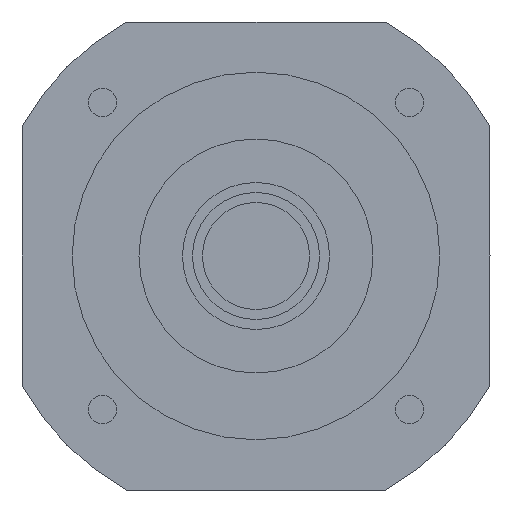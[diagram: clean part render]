
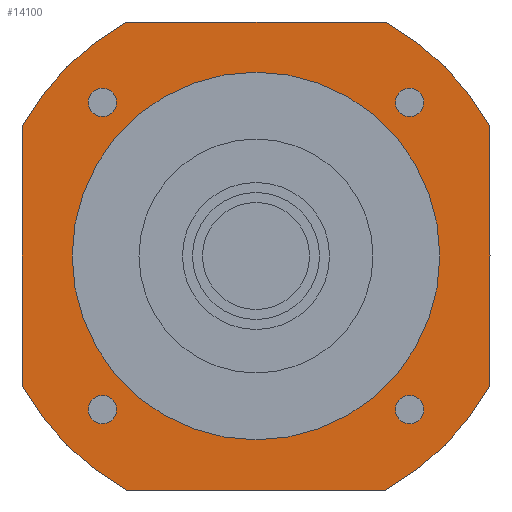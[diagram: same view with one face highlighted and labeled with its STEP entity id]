
A CAD part, left-side view. The second image highlights one B-rep face of the part: STEP entity #14100.
In plain terms, the highlighted planar face has unit normal (-1, 0, 0) as drawn and (0, 0, -1) by its records, which use the part's own axes.
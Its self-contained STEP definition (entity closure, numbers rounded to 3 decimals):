
#10470=CARTESIAN_POINT('',(-41.712,45.962,-84.7));
#10480=VERTEX_POINT('',#10470);
#10510=CARTESIAN_POINT('',(-45.962,45.962,-84.7));
#10520=DIRECTION('',(0.,0.,-1.));
#10530=DIRECTION('',(-1.,0.,0.));
#10540=AXIS2_PLACEMENT_3D('',#10510,#10520,#10530);
#10550=CIRCLE('',#10540,4.25);
#10560=CARTESIAN_POINT('',(-50.212,45.962,-84.7));
#10570=VERTEX_POINT('',#10560);
#10580=EDGE_CURVE('',#10570,#10480,#10550,.T.);
#12510=CARTESIAN_POINT('',(55.,0.,-84.7));
#12520=VERTEX_POINT('',#12510);
#12550=CARTESIAN_POINT('',(0.,0.,
-84.7));
#12560=DIRECTION('',(0.,0.,1.));
#12570=DIRECTION('',(0.,1.,0.));
#12580=AXIS2_PLACEMENT_3D('',#12550,#12560,#12570);
#12590=CIRCLE('',#12580,55.);
#12600=CARTESIAN_POINT('',(0.,55.,-84.7));
#12610=VERTEX_POINT('',#12600);
#12620=EDGE_CURVE('',#12520,#12610,#12590,.T.);
#12640=CARTESIAN_POINT('',(-55.,0.,-84.7));
#12650=VERTEX_POINT('',#12640);
#12660=EDGE_CURVE('',#12610,#12650,#12590,.T.);
#12790=CARTESIAN_POINT('',(70.,70.,-84.7));
#12800=DIRECTION('',(0.,0.,-1.));
#12810=DIRECTION('',(1.,0.,0.));
#12820=AXIS2_PLACEMENT_3D('',#12790,#12800,#12810);
#12830=PLANE('',#12820);
#12840=CARTESIAN_POINT('',(-45.962,-45.962,-84.7));
#12850=DIRECTION('',(0.,0.,-1.));
#12860=DIRECTION('',(0.,-1.,0.));
#12870=AXIS2_PLACEMENT_3D('',#12840,#12850,#12860);
#12880=CIRCLE('',#12870,4.25);
#12890=CARTESIAN_POINT('',(-45.962,-50.212,-84.7));
#12900=VERTEX_POINT('',#12890);
#12910=CARTESIAN_POINT('',(-45.962,-41.712,-84.7));
#12920=VERTEX_POINT('',#12910);
#12930=EDGE_CURVE('',#12900,#12920,#12880,.T.);
#12940=ORIENTED_EDGE('',*,*,#12930,.F.);
#12950=EDGE_CURVE('',#12920,#12900,#12880,.T.);
#12960=ORIENTED_EDGE('',*,*,#12950,.F.);
#12970=EDGE_LOOP('',(#12960,#12940));
#12980=FACE_BOUND('',#12970,.T.);
#12990=ORIENTED_EDGE('',*,*,#10580,.F.);
#13000=EDGE_CURVE('',#10480,#10570,#10550,.T.);
#13010=ORIENTED_EDGE('',*,*,#13000,.F.);
#13020=EDGE_LOOP('',(#13010,#12990));
#13030=FACE_BOUND('',#13020,.T.);
#13040=CARTESIAN_POINT('',(45.962,45.962,-84.7));
#13050=DIRECTION('',(0.,0.,-1.));
#13060=DIRECTION('',(0.,1.,0.));
#13070=AXIS2_PLACEMENT_3D('',#13040,#13050,#13060);
#13080=CIRCLE('',#13070,4.25);
#13090=CARTESIAN_POINT('',(45.962,50.212,-84.7));
#13100=VERTEX_POINT('',#13090);
#13110=CARTESIAN_POINT('',(45.962,41.712,-84.7));
#13120=VERTEX_POINT('',#13110);
#13130=EDGE_CURVE('',#13100,#13120,#13080,.T.);
#13140=ORIENTED_EDGE('',*,*,#13130,.F.);
#13150=EDGE_CURVE('',#13120,#13100,#13080,.T.);
#13160=ORIENTED_EDGE('',*,*,#13150,.F.);
#13170=EDGE_LOOP('',(#13160,#13140));
#13180=FACE_BOUND('',#13170,.T.);
#13190=EDGE_CURVE('',#12650,#12520,#12590,.T.);
#13200=ORIENTED_EDGE('',*,*,#13190,.T.);
#13210=ORIENTED_EDGE('',*,*,#12660,.T.);
#13220=ORIENTED_EDGE('',*,*,#12620,.T.);
#13230=EDGE_LOOP('',(#13220,#13210,#13200));
#13240=FACE_BOUND('',#13230,.T.);
#13250=CARTESIAN_POINT('',(-70.,70.,-84.7));
#13260=DIRECTION('',(1.,0.,0.));
#13270=VECTOR('',#13260,1000.);
#13280=LINE('',#13250,#13270);
#13290=CARTESIAN_POINT('',(-38.73,70.,-84.7));
#13300=VERTEX_POINT('',#13290);
#13310=CARTESIAN_POINT('',(38.73,70.,-84.7));
#13320=VERTEX_POINT('',#13310);
#13330=EDGE_CURVE('',#13300,#13320,#13280,.T.);
#13340=ORIENTED_EDGE('',*,*,#13330,.T.);
#13350=CARTESIAN_POINT('',(0.,0.,
-84.7));
#13360=DIRECTION('',(0.,0.,-1.));
#13370=DIRECTION('',(1.,0.,0.));
#13380=AXIS2_PLACEMENT_3D('',#13350,#13360,#13370);
#13390=CIRCLE('',#13380,80.);
#13400=CARTESIAN_POINT('',(-70.,38.73,-84.7));
#13410=VERTEX_POINT('',#13400);
#13420=EDGE_CURVE('',#13410,#13300,#13390,.T.);
#13430=ORIENTED_EDGE('',*,*,#13420,.T.);
#13440=CARTESIAN_POINT('',(-70.,-70.,-84.7));
#13450=DIRECTION('',(0.,1.,0.));
#13460=VECTOR('',#13450,1000.);
#13470=LINE('',#13440,#13460);
#13480=CARTESIAN_POINT('',(-70.,-38.73,-84.7));
#13490=VERTEX_POINT('',#13480);
#13500=EDGE_CURVE('',#13490,#13410,#13470,.T.);
#13510=ORIENTED_EDGE('',*,*,#13500,.T.);
#13520=CARTESIAN_POINT('',(0.,0.,
-84.7));
#13530=DIRECTION('',(0.,0.,-1.));
#13540=DIRECTION('',(1.,0.,0.));
#13550=AXIS2_PLACEMENT_3D('',#13520,#13530,#13540);
#13560=CIRCLE('',#13550,80.);
#13570=CARTESIAN_POINT('',(-38.73,-70.,-84.7));
#13580=VERTEX_POINT('',#13570);
#13590=EDGE_CURVE('',#13580,#13490,#13560,.T.);
#13600=ORIENTED_EDGE('',*,*,#13590,.T.);
#13610=CARTESIAN_POINT('',(70.,-70.,-84.7));
#13620=DIRECTION('',(-1.,0.,0.));
#13630=VECTOR('',#13620,1000.);
#13640=LINE('',#13610,#13630);
#13650=CARTESIAN_POINT('',(38.73,-70.,-84.7));
#13660=VERTEX_POINT('',#13650);
#13670=EDGE_CURVE('',#13660,#13580,#13640,.T.);
#13680=ORIENTED_EDGE('',*,*,#13670,.T.);
#13690=CARTESIAN_POINT('',(0.,0.,
-84.7));
#13700=DIRECTION('',(0.,0.,-1.));
#13710=DIRECTION('',(1.,0.,0.));
#13720=AXIS2_PLACEMENT_3D('',#13690,#13700,#13710);
#13730=CIRCLE('',#13720,80.);
#13740=CARTESIAN_POINT('',(70.,-38.73,-84.7));
#13750=VERTEX_POINT('',#13740);
#13760=EDGE_CURVE('',#13750,#13660,#13730,.T.);
#13770=ORIENTED_EDGE('',*,*,#13760,.T.);
#13780=CARTESIAN_POINT('',(70.,70.,-84.7));
#13790=DIRECTION('',(0.,-1.,0.));
#13800=VECTOR('',#13790,1000.);
#13810=LINE('',#13780,#13800);
#13820=CARTESIAN_POINT('',(70.,38.73,-84.7));
#13830=VERTEX_POINT('',#13820);
#13840=EDGE_CURVE('',#13830,#13750,#13810,.T.);
#13850=ORIENTED_EDGE('',*,*,#13840,.T.);
#13860=CARTESIAN_POINT('',(0.,0.,
-84.7));
#13870=DIRECTION('',(0.,0.,-1.));
#13880=DIRECTION('',(1.,0.,0.));
#13890=AXIS2_PLACEMENT_3D('',#13860,#13870,#13880);
#13900=CIRCLE('',#13890,80.);
#13910=EDGE_CURVE('',#13320,#13830,#13900,.T.);
#13920=ORIENTED_EDGE('',*,*,#13910,.T.);
#13930=EDGE_LOOP('',(#13920,#13850,#13770,#13680,#13600,#13510,#13430,
#13340));
#13940=FACE_OUTER_BOUND('',#13930,.T.);
#13950=CARTESIAN_POINT('',(45.962,-45.962,-84.7));
#13960=DIRECTION('',(0.,0.,-1.));
#13970=DIRECTION('',(1.,0.,0.));
#13980=AXIS2_PLACEMENT_3D('',#13950,#13960,#13970);
#13990=CIRCLE('',#13980,4.25);
#14000=CARTESIAN_POINT('',(50.212,-45.962,-84.7));
#14010=VERTEX_POINT('',#14000);
#14020=CARTESIAN_POINT('',(41.712,-45.962,-84.7));
#14030=VERTEX_POINT('',#14020);
#14040=EDGE_CURVE('',#14010,#14030,#13990,.T.);
#14050=ORIENTED_EDGE('',*,*,#14040,.F.);
#14060=EDGE_CURVE('',#14030,#14010,#13990,.T.);
#14070=ORIENTED_EDGE('',*,*,#14060,.F.);
#14080=EDGE_LOOP('',(#14070,#14050));
#14090=FACE_BOUND('',#14080,.T.);
#14100=ADVANCED_FACE('',(#12980,#13030,#13180,#13240,#13940,#14090),
#12830,.T.);
